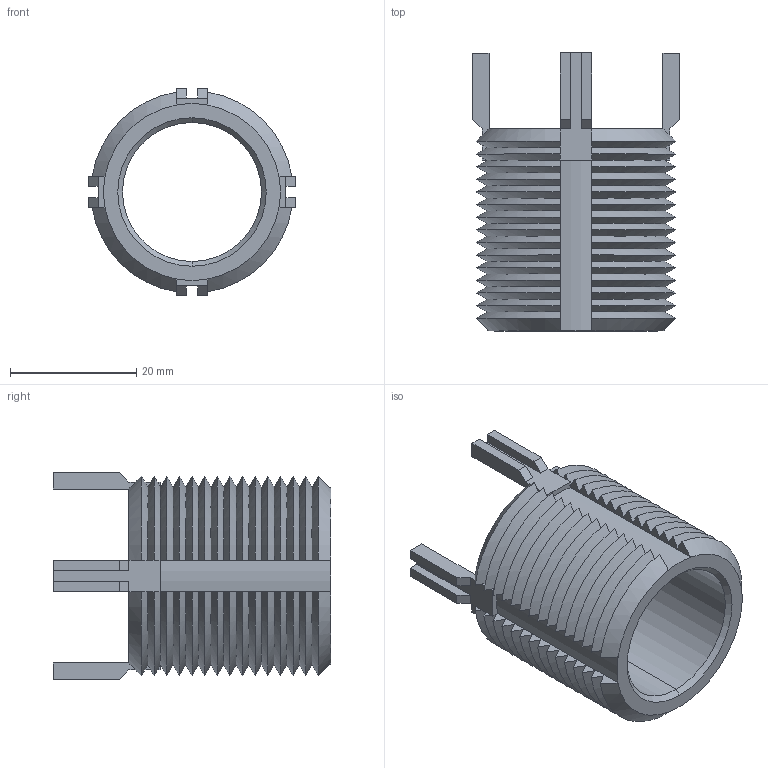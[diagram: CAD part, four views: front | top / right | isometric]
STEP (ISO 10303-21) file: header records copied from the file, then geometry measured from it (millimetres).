
FILE_DESCRIPTION (( 'STEP AP203' ), '1' );
FILE_NAME ('22002.W5740.step', '2023-03-20T19:30:43', ( '' ), ( '' ), 'SwSTEP 2.0', 'SolidWorks 2019', '' );
FILE_SCHEMA (( 'CONFIG_CONTROL_DESIGN' ));
Length unit declared in the file: millimetre
Products named in the file (1): 22002.W5740
Bounding box: 32.75 x 44 x 32.75 mm (x, y, z)
Volume: 10653.2 mm3; surface area: 9071.8 mm2
Topology: 1 solids, 1 shells, 220 faces, 586 edges, 368 vertices
Faces by surface type: cone 124, plane 90, cylinder 6
Entity records: 7099 total; most frequent: CARTESIAN_POINT 1991, ORIENTED_EDGE 1172, DIRECTION 896, EDGE_CURVE 586, VERTEX_POINT 368, AXIS2_PLACEMENT_3D 361, B_SPLINE_CURVE_WITH_KNOTS 272, EDGE_LOOP 222
